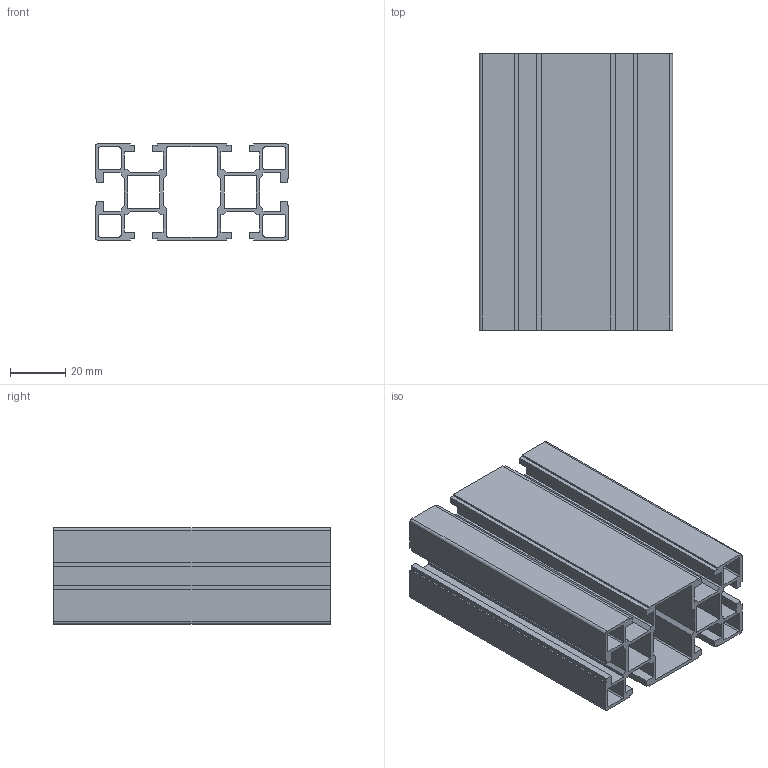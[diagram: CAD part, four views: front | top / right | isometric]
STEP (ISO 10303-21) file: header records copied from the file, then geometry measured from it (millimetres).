
FILE_DESCRIPTION(/* description */ (''),/* implementation_level */ '2;1');
FILE_NAME(/* name */ 'C:\Users\Owner\Documents\硯聰\Inv材料庫-3D新型錄\AM-(鋁擠)\6系列\AM6-3570_100L.stp',/* time_stamp */ '2019-02-21T14:03:10+08:00',/* author */ ('Owner'),/* organization */ (''),/* preprocessor_version */ 'ST-DEVELOPER v16.1',/* originating_system */ 'Autodesk Inventor 2016',/* authorisation */ '');
FILE_SCHEMA (('AUTOMOTIVE_DESIGN { 1 0 10303 214 3 1 1 }'));
Length unit declared in the file: millimetre
Products named in the file (1): AM6-3570_100L
Bounding box: 70 x 100 x 35 mm (x, y, z)
Volume: 54765.5 mm3; surface area: 74689.7 mm2
Topology: 1 solids, 1 shells, 162 faces, 480 edges, 320 vertices
Faces by surface type: plane 138, cylinder 24
Entity records: 5404 total; most frequent: CARTESIAN_POINT 963, ORIENTED_EDGE 960, DIRECTION 854, EDGE_CURVE 480, LINE 432, VECTOR 432, VERTEX_POINT 320, AXIS2_PLACEMENT_3D 211
